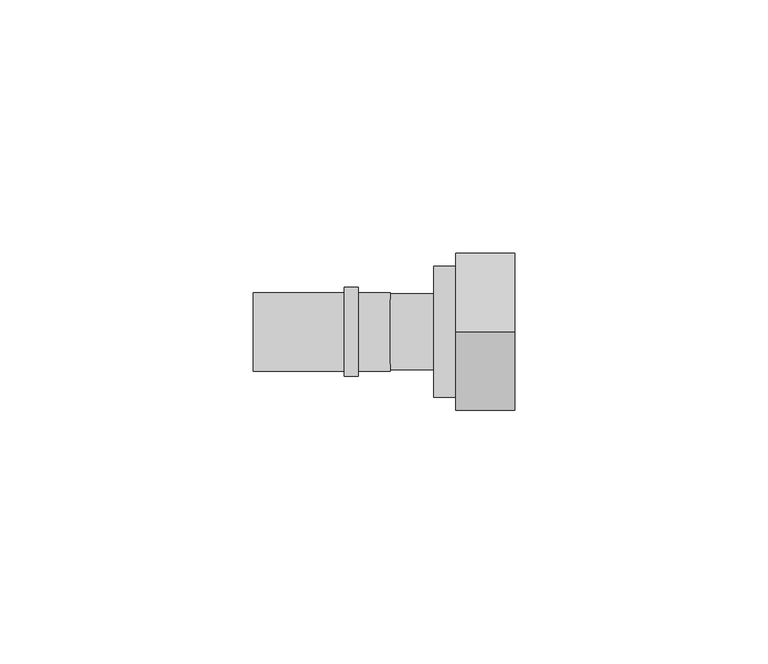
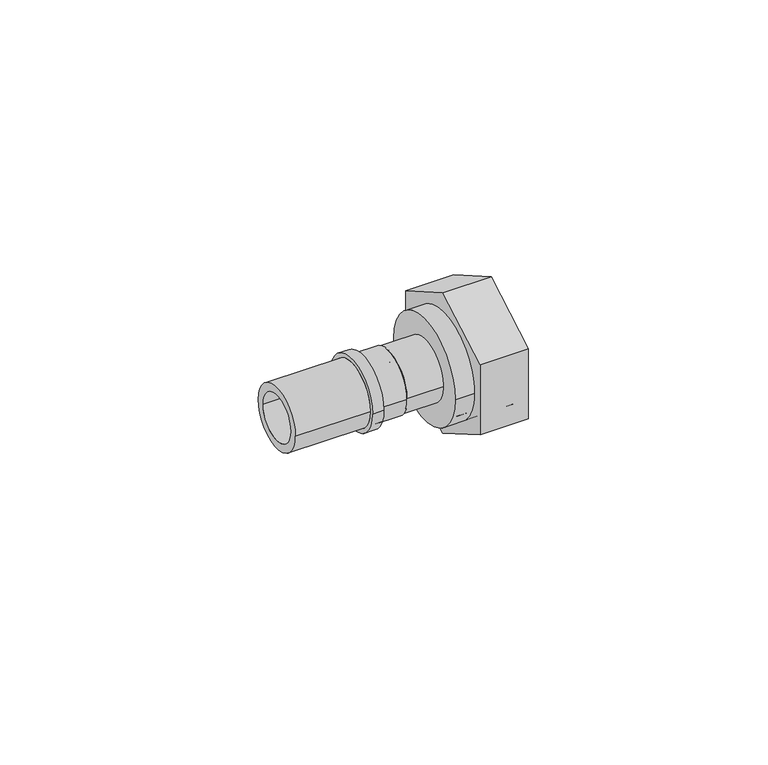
"""IFC4 building model written with IfcOpenShell, lengths in millimetres: pipe fitting geometry, FASTLOC_Adapter with union nut LX : FSL A union nut PL."""

from ifc_helpers import new_model, si_unit, point, frame, origin, origin_2d, place, context, project, spatial, polyline, circle_curve, trimmed, segment, composite_curve, outline, extrude, source, transform, mapped, element, save
from ifc_brep_helpers import plane_surface, cylinder_surface, revolved_surface, advanced_brep


def pipe_fitting_01ff2310(model_context):
    return source(origin(), model_context, "Body", "SolidModel", [
        advanced_brep(
        [(12.0, 7.5, 0.0), (12.0, -7.5, 0.0), (0.0, -7.5, 0.0), (0.0, 7.5, 0.0), (14.0, 11.6, 0.0), (14.0, -11.6, 0.0), (12.0, -11.6, 0.0), (12.0, 11.6, 0.0), (1.4730817, 5.75, 0.0), (1.4730817, -5.75, 0.0), (14.0, -5.75, 0.0), (14.0, 5.75, 0.0), (0.0, 3.5764556, 0.0), (0.0, -3.5764556, 0.0), (1.4730817, -3.5764556, 0.0), (1.4730817, 3.5764556, 0.0)],
        [
            (0, 1, circle_curve(frame((12.0, 0.0, 0.0), z_axis=(-1.0, 0.0, 0.0), x_axis=(0.0, -1.0, 0.0)), 7.5)),
            (1, 2),
            (2, 3, circle_curve(frame((0.0, 0.0, 0.0), z_axis=(1.0, 0.0, 0.0), x_axis=(0.0, -1.0, 0.0)), 7.5)),
            (3, 0),
            (4, 5, circle_curve(frame((14.0, 0.0, 0.0), z_axis=(-1.0, 0.0, 0.0), x_axis=(0.0, -1.0, 0.0)), 11.6)),
            (5, 6),
            (6, 7, circle_curve(frame((12.0, 0.0, 0.0), z_axis=(1.0, 0.0, 0.0), x_axis=(0.0, -1.0, 0.0)), 11.6)),
            (7, 4),
            (8, 9, circle_curve(frame((1.4730817, 0.0, 0.0), z_axis=(-1.0, 0.0, 0.0), x_axis=(0.0, -1.0, 0.0)), 5.75)),
            (9, 10),
            (10, 11, circle_curve(frame((14.0, 0.0, 0.0), z_axis=(1.0, 0.0, 0.0), x_axis=(0.0, -1.0, 0.0)), 5.75)),
            (11, 8),
            (12, 13, circle_curve(frame((0.0, 0.0, 0.0), z_axis=(-1.0, 0.0, 0.0), x_axis=(0.0, -1.0, 0.0)), 3.5764556)),
            (13, 14),
            (14, 15, circle_curve(frame((1.4730817, 0.0, 0.0), z_axis=(1.0, 0.0, 0.0), x_axis=(0.0, -1.0, 0.0)), 3.5764556)),
            (15, 12),
            (2, 3, circle_curve(frame((0.0, 0.0, 0.0), z_axis=(-1.0, 0.0, 0.0), x_axis=(0.0, 1.0, 0.0)), 7.5)),
            (12, 13, circle_curve(frame((0.0, 0.0, 0.0), z_axis=(1.0, 0.0, 0.0), x_axis=(0.0, 1.0, 0.0)), 3.5764556)),
            (1, 0, circle_curve(frame((12.0, 0.0, 0.0), z_axis=(-1.0, 0.0, 0.0), x_axis=(0.0, 1.0, 0.0)), 7.5)),
            (6, 7, circle_curve(frame((12.0, 0.0, 0.0), z_axis=(-1.0, 0.0, 0.0), x_axis=(0.0, 1.0, 0.0)), 11.6)),
            (5, 4, circle_curve(frame((14.0, 0.0, 0.0), z_axis=(-1.0, 0.0, 0.0), x_axis=(0.0, 1.0, 0.0)), 11.6)),
            (10, 11, circle_curve(frame((14.0, 0.0, 0.0), z_axis=(-1.0, 0.0, 0.0), x_axis=(0.0, 1.0, 0.0)), 5.75)),
            (9, 8, circle_curve(frame((1.4730817, 0.0, 0.0), z_axis=(-1.0, 0.0, 0.0), x_axis=(0.0, 1.0, 0.0)), 5.75)),
            (14, 15, circle_curve(frame((1.4730817, 0.0, 0.0), z_axis=(-1.0, 0.0, 0.0), x_axis=(0.0, 1.0, 0.0)), 3.5764556)),
        ],
        [
            cylinder_surface(frame((0.0, 0.0, 0.0), z_axis=(1.0, 0.0, 0.0), x_axis=(0.0, -1.0, 0.0)), 7.5),
            cylinder_surface(frame((0.0, 0.0, 0.0), z_axis=(1.0, 0.0, 0.0), x_axis=(0.0, -1.0, 0.0)), 11.6),
            revolved_surface(polyline([(14.0, -5.75, 0.0), (1.4730817, -5.75, 0.0)]), (0.0, 0.0, 0.0), (1.0, 0.0, 0.0)),
            revolved_surface(polyline([(1.4730817, -3.5764556, 0.0), (0.0, -3.5764556, 0.0)]), (0.0, 0.0, 0.0), (1.0, 0.0, 0.0)),
            plane_surface(frame((0.0, 0.0, 0.0), z_axis=(-1.0, 0.0, 0.0), x_axis=(0.0, 1.0, 0.0))),
            cylinder_surface(frame((0.0, 0.0, 0.0), z_axis=(1.0, 0.0, 0.0), x_axis=(0.0, 1.0, 0.0)), 7.5),
            plane_surface(frame((12.0, 0.0, 0.0), z_axis=(-1.0, 0.0, 0.0), x_axis=(0.0, 1.0, 0.0))),
            cylinder_surface(frame((0.0, 0.0, 0.0), z_axis=(1.0, 0.0, 0.0), x_axis=(0.0, 1.0, 0.0)), 11.6),
            plane_surface(frame((14.0, 0.0, 0.0), z_axis=(1.0, 0.0, 0.0), x_axis=(0.0, 1.0, 0.0))),
            revolved_surface(polyline([(14.0, 5.75, 0.0), (1.4730817, 5.75, 0.0)]), (0.0, 0.0, 0.0), (1.0, 0.0, 0.0)),
            plane_surface(frame((1.4730817, 0.0, 0.0), z_axis=(1.0, 0.0, 0.0), x_axis=(0.0, 1.0, 0.0))),
            revolved_surface(polyline([(1.4730817, 3.5764556, 0.0), (0.0, 3.5764556, 0.0)]), (0.0, 0.0, 0.0), (1.0, 0.0, 0.0)),
        ],
        [
            (0, [[1, 2, 3, 4]]),
            (1, [[5, 6, 7, 8]]),
            (2, [[9, 10, 11, 12]]),
            (3, [[13, 14, 15, 16]]),
            (4, [[17, -3], [18, -13]]),
            (5, [[19, -4, -17, -2]]),
            (6, [[20, -7], [-19, -1]]),
            (7, [[21, -8, -20, -6]]),
            (8, [[-21, -5], [22, -11]]),
            (9, [[23, -12, -22, -10]]),
            (10, [[-23, -9], [24, -15]]),
            (11, [[-18, -16, -24, -14]]),
        ],
    ),
        advanced_brep(
        [(24.6, 12.9, 0.0), (24.6, -12.9, 0.0), (8.6, -12.9, 0.0), (8.6, 12.9, 0.0), (12.1, 10.0, 0.0), (12.1, -10.0, 0.0), (24.6, -10.0, 0.0), (24.6, 10.0, 0.0), (8.6, 6.5, 0.0), (8.6, -6.5, 0.0), (12.1, -6.5, 0.0), (12.1, 6.5, 0.0)],
        [
            (0, 1, circle_curve(frame((24.6, 0.0, 0.0), z_axis=(-1.0, 0.0, 0.0), x_axis=(0.0, -1.0, 0.0)), 12.9)),
            (1, 2),
            (2, 3, circle_curve(frame((8.6, 0.0, 0.0), z_axis=(1.0, 0.0, 0.0), x_axis=(0.0, -1.0, 0.0)), 12.9)),
            (3, 0),
            (4, 5, circle_curve(frame((12.1, 0.0, 0.0), z_axis=(-1.0, 0.0, 0.0), x_axis=(0.0, -1.0, 0.0)), 10.0)),
            (5, 6),
            (6, 7, circle_curve(frame((24.6, 0.0, 0.0), z_axis=(1.0, 0.0, 0.0), x_axis=(0.0, -1.0, 0.0)), 10.0)),
            (7, 4),
            (8, 9, circle_curve(frame((8.6, 0.0, 0.0), z_axis=(-1.0, 0.0, 0.0), x_axis=(0.0, -1.0, 0.0)), 6.5)),
            (9, 10),
            (10, 11, circle_curve(frame((12.1, 0.0, 0.0), z_axis=(1.0, 0.0, 0.0), x_axis=(0.0, -1.0, 0.0)), 6.5)),
            (11, 8),
            (1, 0, circle_curve(frame((24.6, 0.0, 0.0), z_axis=(-1.0, 0.0, 0.0), x_axis=(0.0, 1.0, 0.0)), 12.9)),
            (3, 2, circle_curve(frame((8.6, 0.0, 0.0), z_axis=(1.0, 0.0, 0.0), x_axis=(0.0, 1.0, 0.0)), 12.9)),
            (6, 7, circle_curve(frame((24.6, 0.0, 0.0), z_axis=(-1.0, 0.0, 0.0), x_axis=(0.0, 1.0, 0.0)), 10.0)),
            (5, 4, circle_curve(frame((12.1, 0.0, 0.0), z_axis=(-1.0, 0.0, 0.0), x_axis=(0.0, 1.0, 0.0)), 10.0)),
            (10, 11, circle_curve(frame((12.1, 0.0, 0.0), z_axis=(-1.0, 0.0, 0.0), x_axis=(0.0, 1.0, 0.0)), 6.5)),
            (9, 8, circle_curve(frame((8.6, 0.0, 0.0), z_axis=(-1.0, 0.0, 0.0), x_axis=(0.0, 1.0, 0.0)), 6.5)),
        ],
        [
            cylinder_surface(frame((0.0, 0.0, 0.0), z_axis=(1.0, 0.0, 0.0), x_axis=(0.0, -1.0, 0.0)), 12.9),
            revolved_surface(polyline([(24.6, -10.0, 0.0), (12.1, -10.0, 0.0)]), (0.0, 0.0, 0.0), (1.0, 0.0, 0.0)),
            revolved_surface(polyline([(12.1, -6.5, 0.0), (8.6, -6.5, 0.0)]), (0.0, 0.0, 0.0), (1.0, 0.0, 0.0)),
            cylinder_surface(frame((0.0, 0.0, 0.0), z_axis=(1.0, 0.0, 0.0), x_axis=(0.0, 1.0, 0.0)), 12.9),
            plane_surface(frame((24.6, 0.0, 0.0), z_axis=(1.0, 0.0, 0.0), x_axis=(0.0, 1.0, 0.0))),
            revolved_surface(polyline([(24.6, 10.0, 0.0), (12.1, 10.0, 0.0)]), (0.0, 0.0, 0.0), (1.0, 0.0, 0.0)),
            plane_surface(frame((12.1, 0.0, 0.0), z_axis=(1.0, 0.0, 0.0), x_axis=(0.0, 1.0, 0.0))),
            revolved_surface(polyline([(12.1, 6.5, 0.0), (8.6, 6.5, 0.0)]), (0.0, 0.0, 0.0), (1.0, 0.0, 0.0)),
            plane_surface(frame((8.6, 0.0, 0.0), z_axis=(-1.0, 0.0, 0.0), x_axis=(0.0, 1.0, 0.0))),
        ],
        [
            (0, [[1, 2, 3, 4]]),
            (1, [[5, 6, 7, 8]]),
            (2, [[9, 10, 11, 12]]),
            (3, [[13, -4, 14, -2]]),
            (4, [[-13, -1], [15, -7]]),
            (5, [[16, -8, -15, -6]]),
            (6, [[-16, -5], [17, -11]]),
            (7, [[18, -12, -17, -10]]),
            (8, [[-14, -3], [-18, -9]]),
        ],
    ),
        extrude(outline(polyline([(0.0, -17.8978583), (-15.5, -8.9489292), (-15.5, 8.9489292), (0.0, 17.8978583), (15.5, 8.9489292), (15.5, -8.9489292), (0.0, -17.8978583)]), holes=[composite_curve([segment(trimmed(circle_curve(origin_2d(), 10.0), [point((-10.0, 0.0))], [point((10.0, 0.0))], True, "CARTESIAN"), True, "CONTINUOUS"), segment(trimmed(circle_curve(origin_2d(), 10.0), [point((10.0, 0.0))], [point((-10.0, 0.0))], True, "CARTESIAN"), True, "CONTINUOUS")], self_intersect=False)]), frame((13.0, 0.0, 0.0), z_axis=(1.0, 0.0, 0.0), x_axis=(0.0, 1.0, 0.0)), (0.0, 0.0, 1.0), 11.6),
        advanced_brep(
        [(-9.0, 7.75, 0.0), (-9.0, -7.75, 0.0), (-27.0, -7.75, 0.0), (-27.0, 7.75, 0.0), (-6.3, 8.8, 0.0), (-6.3, -8.8, 0.0), (-9.0, -8.8, 0.0), (-9.0, 8.8, 0.0), (0.0, 7.75, 0.0), (0.0, -7.75, 0.0), (-6.3, -7.75, 0.0), (-6.3, 7.75, 0.0), (-27.0, 5.75, 0.0), (-27.0, -5.75, 0.0), (0.0, -5.75, 0.0), (0.0, 5.75, 0.0)],
        [
            (0, 1, circle_curve(frame((-9.0, 0.0, 0.0), z_axis=(-1.0, 0.0, 0.0), x_axis=(0.0, -1.0, 0.0)), 7.75)),
            (1, 2),
            (2, 3, circle_curve(frame((-27.0, 0.0, 0.0), z_axis=(1.0, 0.0, 0.0), x_axis=(0.0, -1.0, 0.0)), 7.75)),
            (3, 0),
            (4, 5, circle_curve(frame((-6.3, 0.0, 0.0), z_axis=(-1.0, 0.0, 0.0), x_axis=(0.0, -1.0, 0.0)), 8.8)),
            (5, 6),
            (6, 7, circle_curve(frame((-9.0, 0.0, 0.0), z_axis=(1.0, 0.0, 0.0), x_axis=(0.0, -1.0, 0.0)), 8.8)),
            (7, 4),
            (8, 9, circle_curve(frame((0.0, 0.0, 0.0), z_axis=(-1.0, 0.0, 0.0), x_axis=(0.0, -1.0, 0.0)), 7.75)),
            (9, 10),
            (10, 11, circle_curve(frame((-6.3, 0.0, 0.0), z_axis=(1.0, 0.0, 0.0), x_axis=(0.0, -1.0, 0.0)), 7.75)),
            (11, 8),
            (12, 13, circle_curve(frame((-27.0, 0.0, 0.0), z_axis=(-1.0, 0.0, 0.0), x_axis=(0.0, -1.0, 0.0)), 5.75)),
            (13, 14),
            (14, 15, circle_curve(frame((0.0, 0.0, 0.0), z_axis=(1.0, 0.0, 0.0), x_axis=(0.0, -1.0, 0.0)), 5.75)),
            (15, 12),
            (2, 3, circle_curve(frame((-27.0, 0.0, 0.0), z_axis=(-1.0, 0.0, 0.0), x_axis=(0.0, 1.0, 0.0)), 7.75)),
            (12, 13, circle_curve(frame((-27.0, 0.0, 0.0), z_axis=(1.0, 0.0, 0.0), x_axis=(0.0, 1.0, 0.0)), 5.75)),
            (1, 0, circle_curve(frame((-9.0, 0.0, 0.0), z_axis=(-1.0, 0.0, 0.0), x_axis=(0.0, 1.0, 0.0)), 7.75)),
            (6, 7, circle_curve(frame((-9.0, 0.0, 0.0), z_axis=(-1.0, 0.0, 0.0), x_axis=(0.0, 1.0, 0.0)), 8.8)),
            (5, 4, circle_curve(frame((-6.3, 0.0, 0.0), z_axis=(-1.0, 0.0, 0.0), x_axis=(0.0, 1.0, 0.0)), 8.8)),
            (10, 11, circle_curve(frame((-6.3, 0.0, 0.0), z_axis=(-1.0, 0.0, 0.0), x_axis=(0.0, 1.0, 0.0)), 7.75)),
            (9, 8, circle_curve(frame((0.0, 0.0, 0.0), z_axis=(-1.0, 0.0, 0.0), x_axis=(0.0, 1.0, 0.0)), 7.75)),
            (14, 15, circle_curve(frame((0.0, 0.0, 0.0), z_axis=(-1.0, 0.0, 0.0), x_axis=(0.0, 1.0, 0.0)), 5.75)),
        ],
        [
            cylinder_surface(frame((0.0, 0.0, 0.0), z_axis=(1.0, 0.0, 0.0), x_axis=(0.0, -1.0, 0.0)), 7.75),
            cylinder_surface(frame((0.0, 0.0, 0.0), z_axis=(1.0, 0.0, 0.0), x_axis=(0.0, -1.0, 0.0)), 8.8),
            revolved_surface(polyline([(0.0, -5.75, 0.0), (-27.0, -5.75, 0.0)]), (0.0, 0.0, 0.0), (1.0, 0.0, 0.0)),
            plane_surface(frame((-27.0, 0.0, 0.0), z_axis=(-1.0, 0.0, 0.0), x_axis=(0.0, 1.0, 0.0))),
            cylinder_surface(frame((0.0, 0.0, 0.0), z_axis=(1.0, 0.0, 0.0), x_axis=(0.0, 1.0, 0.0)), 7.75),
            plane_surface(frame((-9.0, 0.0, 0.0), z_axis=(-1.0, 0.0, 0.0), x_axis=(0.0, 1.0, 0.0))),
            cylinder_surface(frame((0.0, 0.0, 0.0), z_axis=(1.0, 0.0, 0.0), x_axis=(0.0, 1.0, 0.0)), 8.8),
            plane_surface(frame((-6.3, 0.0, 0.0), z_axis=(1.0, 0.0, 0.0), x_axis=(0.0, 1.0, 0.0))),
            plane_surface(frame((0.0, 0.0, 0.0), z_axis=(1.0, 0.0, 0.0), x_axis=(0.0, 1.0, 0.0))),
            revolved_surface(polyline([(0.0, 5.75, 0.0), (-27.0, 5.75, 0.0)]), (0.0, 0.0, 0.0), (1.0, 0.0, 0.0)),
        ],
        [
            (0, [[1, 2, 3, 4]]),
            (1, [[5, 6, 7, 8]]),
            (0, [[9, 10, 11, 12]]),
            (2, [[13, 14, 15, 16]]),
            (3, [[17, -3], [18, -13]]),
            (4, [[19, -4, -17, -2]]),
            (5, [[20, -7], [-19, -1]]),
            (6, [[21, -8, -20, -6]]),
            (7, [[-21, -5], [22, -11]]),
            (4, [[23, -12, -22, -10]]),
            (8, [[-23, -9], [24, -15]]),
            (9, [[-18, -16, -24, -14]]),
        ],
    ),
    ])


if __name__ == "__main__":
    model = new_model("IFC4")
    model_context = context("Model", 3, world=origin())
    ifc_project = project(units=[si_unit("LENGTHUNIT", "METRE", prefix="MILLI")], contexts=[model_context])
    site = spatial("IfcSite", under=ifc_project)
    building = spatial("IfcBuilding", under=site)
    placement = place(None, origin())
    pipe_fitting_shape = pipe_fitting_01ff2310(model_context)
    element("IfcPipeFitting", 1, ObjectType="FASTLOC_Adapter with union nut LX : FSL A union nut PL", at=placement, inside=building, context=model_context, shape_type="MappedRepresentation", body=[
        mapped(pipe_fitting_shape, transform((0.0, 0.0, 0.0), x_axis=(1.0, 0.0, 0.0), y_axis=(0.0, 1.0, 0.0), z_axis=(0.0, 0.0, 1.0))),
    ])
    save(model, "model.ifc")
